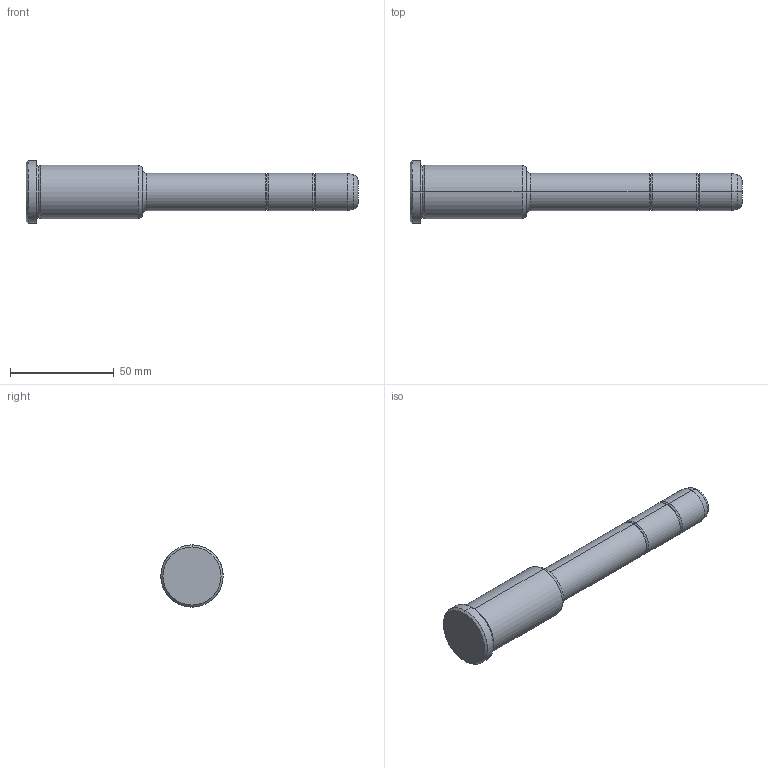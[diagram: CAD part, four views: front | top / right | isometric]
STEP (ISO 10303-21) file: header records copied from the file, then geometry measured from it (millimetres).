
FILE_DESCRIPTION(('CATIA V5 STEP Exchange'),'2;1');
FILE_NAME('C:\Users\Utente\Desktop\IO LAVORO\3D X SITO CF\X SITO\PLASTICA\351\351-18X56X160.stp','2021-08-27T11:25:03+00:00',('none'),('none'),'CATIA Version 5 Release 20 GA (IN-10)','CATIA V5 STEP AP203','none');
FILE_SCHEMA(('CONFIG_CONTROL_DESIGN'));
Length unit declared in the file: millimetre
Products named in the file (1): 351-18X56X160
Bounding box: 160 x 30 x 30 mm (x, y, z)
Volume: 56644.3 mm3; surface area: 11701.4 mm2
Topology: 1 solids, 1 shells, 36 faces, 102 edges, 70 vertices
Faces by surface type: torus 16, cylinder 10, cone 6, plane 4
Entity records: 1292 total; most frequent: CARTESIAN_POINT 321, ORIENTED_EDGE 204, DIRECTION 166, AXIS2_PLACEMENT_3D 115, EDGE_CURVE 102, CIRCLE 78, VERTEX_POINT 70, EDGE_LOOP 38
